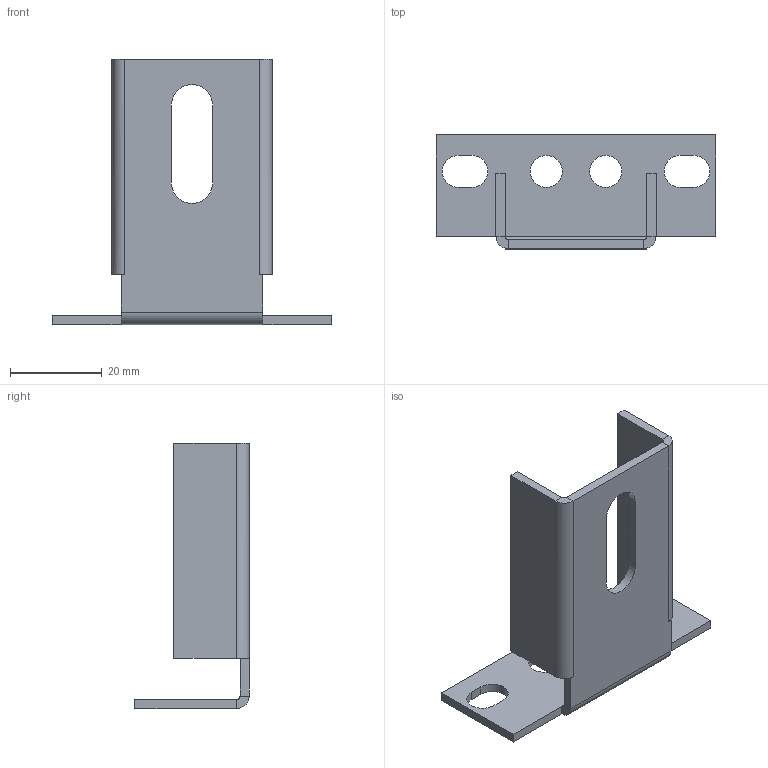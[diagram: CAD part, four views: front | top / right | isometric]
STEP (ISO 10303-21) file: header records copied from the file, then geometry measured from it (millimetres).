
FILE_DESCRIPTION (( 'STEP AP214' ), '1' );
FILE_NAME ('扰樖錼膻嬅2.STEP', '2018-07-10T07:43:03', ( '' ), ( '' ), 'SwSTEP 2.0', 'SolidWorks 2018', '' );
FILE_SCHEMA (( 'AUTOMOTIVE_DESIGN' ));
Length unit declared in the file: millimetre
Products named in the file (1): 扰樖錼膻嬅2
Bounding box: 61 x 25 x 58 mm (x, y, z)
Volume: 8448.4 mm3; surface area: 9464 mm2
Topology: 1 solids, 1 shells, 53 faces, 131 edges, 80 vertices
Faces by surface type: plane 36, cylinder 17
Entity records: 1599 total; most frequent: DIRECTION 275, CARTESIAN_POINT 265, ORIENTED_EDGE 262, EDGE_CURVE 131, LINE 95, VECTOR 95, AXIS2_PLACEMENT_3D 90, VERTEX_POINT 80
